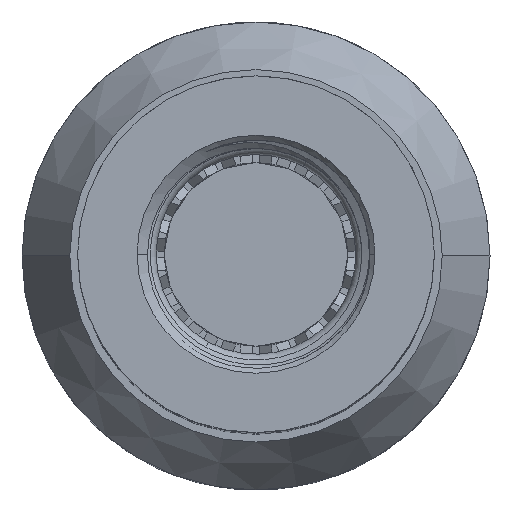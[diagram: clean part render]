
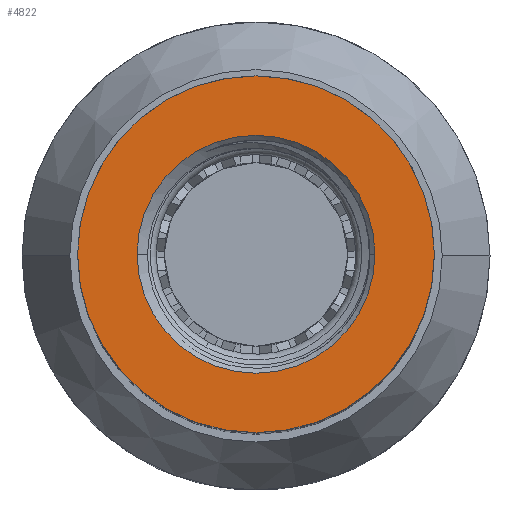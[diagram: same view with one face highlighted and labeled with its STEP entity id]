
A CAD part, top view. The second image highlights one B-rep face of the part: STEP entity #4822.
In plain terms, the highlighted planar face has unit normal (0, 0, 1).
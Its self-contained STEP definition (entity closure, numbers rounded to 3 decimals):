
#3855 = CARTESIAN_POINT ( 'NONE',  ( 7.747, 0., 5.664 ) ) ;
#4669 = CARTESIAN_POINT ( 'NONE',  ( 11.621, 0., 5.664 ) ) ;
#4822 = ADVANCED_FACE ( 'NONE', ( #17408, #34980 ), #17692, .T. ) ;
#5124 = AXIS2_PLACEMENT_3D ( 'NONE', #29624, #52528, #7284 ) ;
#7284 = DIRECTION ( 'NONE',  ( 1., 0., 0. ) ) ;
#8195 = VERTEX_POINT ( 'NONE', #58413 ) ;
#9052 = ORIENTED_EDGE ( 'NONE', *, *, #30291, .T. ) ;
#11101 = VERTEX_POINT ( 'NONE', #3855 ) ;
#11747 = DIRECTION ( 'NONE',  ( 0., 0., 1. ) ) ;
#12132 = VERTEX_POINT ( 'NONE', #26180 ) ;
#13448 = EDGE_CURVE ( 'NONE', #38730, #12132, #15335, .T. ) ;
#14192 = DIRECTION ( 'NONE',  ( 1., 0., 0. ) ) ;
#15335 = CIRCLE ( 'NONE', #48614, 11.621 ) ;
#16155 = EDGE_LOOP ( 'NONE', ( #9052, #18708 ) ) ;
#16666 = ORIENTED_EDGE ( 'NONE', *, *, #13448, .F. ) ;
#17408 = FACE_BOUND ( 'NONE', #16155, .T. ) ;
#17692 = PLANE ( 'NONE',  #23844 ) ;
#18708 = ORIENTED_EDGE ( 'NONE', *, *, #25829, .T. ) ;
#19923 = AXIS2_PLACEMENT_3D ( 'NONE', #48548, #56597, #42603 ) ;
#23436 = DIRECTION ( 'NONE',  ( 0., 0., -1. ) ) ;
#23844 = AXIS2_PLACEMENT_3D ( 'NONE', #53119, #11747, #29937 ) ;
#24540 = DIRECTION ( 'NONE',  ( 0., 0., -1. ) ) ;
#25829 = EDGE_CURVE ( 'NONE', #8195, #11101, #45609, .T. ) ;
#26180 = CARTESIAN_POINT ( 'NONE',  ( -11.621, 0., 5.664 ) ) ;
#29624 = CARTESIAN_POINT ( 'NONE',  ( 0., 0., 5.664 ) ) ;
#29937 = DIRECTION ( 'NONE',  ( -1., 0., 0. ) ) ;
#30291 = EDGE_CURVE ( 'NONE', #11101, #8195, #35015, .T. ) ;
#30782 = CIRCLE ( 'NONE', #5124, 11.621 ) ;
#34980 = FACE_OUTER_BOUND ( 'NONE', #56135, .T. ) ;
#35015 = CIRCLE ( 'NONE', #54038, 7.747 ) ;
#36241 = ORIENTED_EDGE ( 'NONE', *, *, #38876, .F. ) ;
#36782 = DIRECTION ( 'NONE',  ( 1., 0., 0. ) ) ;
#36840 = CARTESIAN_POINT ( 'NONE',  ( 0., 0., 5.664 ) ) ;
#38730 = VERTEX_POINT ( 'NONE', #4669 ) ;
#38876 = EDGE_CURVE ( 'NONE', #12132, #38730, #30782, .T. ) ;
#42603 = DIRECTION ( 'NONE',  ( 1., 0., 0. ) ) ;
#45609 = CIRCLE ( 'NONE', #19923, 7.747 ) ;
#47153 = CARTESIAN_POINT ( 'NONE',  ( 0., 0., 5.664 ) ) ;
#48548 = CARTESIAN_POINT ( 'NONE',  ( 0., 0., 5.664 ) ) ;
#48614 = AXIS2_PLACEMENT_3D ( 'NONE', #36840, #23436, #14192 ) ;
#52528 = DIRECTION ( 'NONE',  ( 0., 0., -1. ) ) ;
#53119 = CARTESIAN_POINT ( 'NONE',  ( 11.621, 0., 5.664 ) ) ;
#54038 = AXIS2_PLACEMENT_3D ( 'NONE', #47153, #24540, #36782 ) ;
#56135 = EDGE_LOOP ( 'NONE', ( #16666, #36241 ) ) ;
#56597 = DIRECTION ( 'NONE',  ( 0., 0., -1. ) ) ;
#58413 = CARTESIAN_POINT ( 'NONE',  ( -7.747, 0., 5.664 ) ) ;
